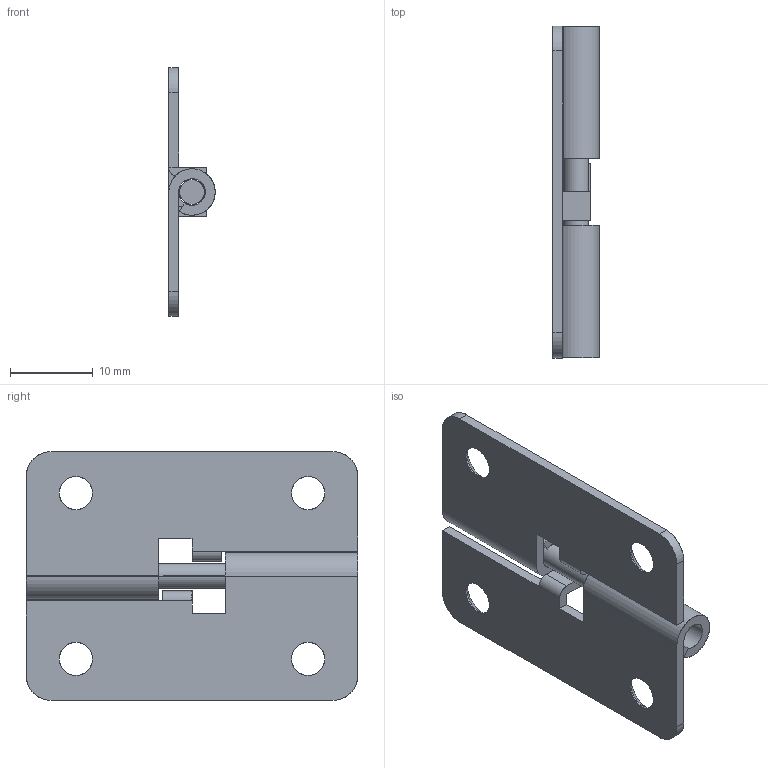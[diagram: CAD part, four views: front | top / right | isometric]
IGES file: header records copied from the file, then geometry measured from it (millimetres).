
Start section: SolidWorks IGES FILE using analytic representation for surfaces
Global section: file name: E:\妙子\仕事\solidworks\ヒンジ0829\DEH-45\DEH-45-2L\DEH-45-2L.IGS; native system: SolidWorks 2003 by SolidWorks Corporation; preprocessor: Version 5.3; author: 妙子,,; organization: 11; date: 130829.153000; units: millimetre
Bounding box: 5.6 x 40 x 30 mm (x, y, z)
Surface area: 3349.4 mm2 (no closed solid volume)
Topology: 0 solids, 0 shells, 60 faces, 848 edges, 848 vertices
Faces by surface type: revolution 30, bspline 30
